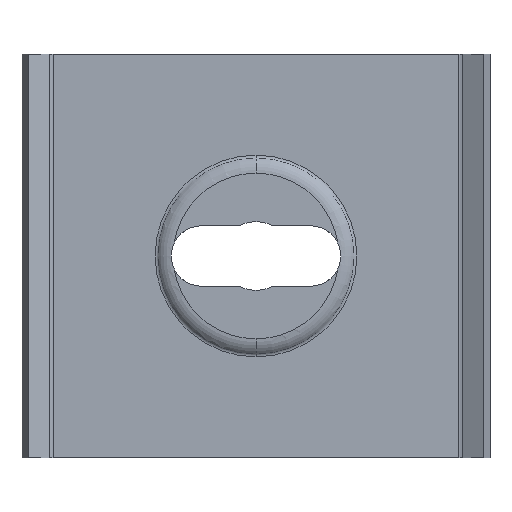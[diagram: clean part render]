
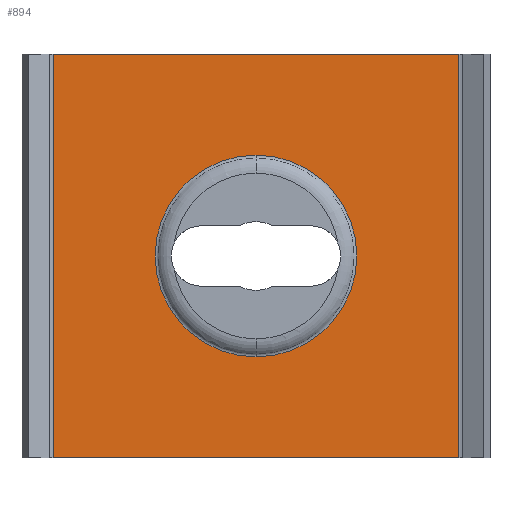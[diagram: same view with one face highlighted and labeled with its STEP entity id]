
A CAD part, left-side view. The second image highlights one B-rep face of the part: STEP entity #894.
In plain terms, the highlighted planar face has unit normal (-1, 0, 0).
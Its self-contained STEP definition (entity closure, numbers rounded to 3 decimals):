
#29 = CARTESIAN_POINT ( 'NONE',  ( -1.5, -25.152, 50. ) ) ;
#48 = CARTESIAN_POINT ( 'NONE',  ( -1.5, -25.152, 50. ) ) ;
#76 = CARTESIAN_POINT ( 'NONE',  ( -1.5, 25.152, 50. ) ) ;
#93 = ORIENTED_EDGE ( 'NONE', *, *, #979, .T. ) ;
#96 = DIRECTION ( 'NONE',  ( -1., 0., 0. ) ) ;
#140 = LINE ( 'NONE', #76, #1032 ) ;
#143 = DIRECTION ( 'NONE',  ( 0., 0., -1. ) ) ;
#193 = AXIS2_PLACEMENT_3D ( 'NONE', #583, #1096, #143 ) ;
#200 = CARTESIAN_POINT ( 'NONE',  ( -1.5, 25.152, 0. ) ) ;
#214 = CARTESIAN_POINT ( 'NONE',  ( -1.5, -25.152, 0. ) ) ;
#218 = ORIENTED_EDGE ( 'NONE', *, *, #506, .F. ) ;
#249 = VECTOR ( 'NONE', #297, 1000. ) ;
#264 = LINE ( 'NONE', #200, #249 ) ;
#277 = FACE_OUTER_BOUND ( 'NONE', #698, .T. ) ;
#279 = AXIS2_PLACEMENT_3D ( 'NONE', #443, #96, #361 ) ;
#283 = ORIENTED_EDGE ( 'NONE', *, *, #491, .F. ) ;
#296 = VERTEX_POINT ( 'NONE', #702 ) ;
#297 = DIRECTION ( 'NONE',  ( 0., -1., 0. ) ) ;
#298 = ORIENTED_EDGE ( 'NONE', *, *, #701, .T. ) ;
#330 = CARTESIAN_POINT ( 'NONE',  ( -1.5, 25.152, 50. ) ) ;
#361 = DIRECTION ( 'NONE',  ( 0., 0., -1. ) ) ;
#375 = DIRECTION ( 'NONE',  ( 0., 1., 0. ) ) ;
#417 = FACE_BOUND ( 'NONE', #690, .T. ) ;
#443 = CARTESIAN_POINT ( 'NONE',  ( -1.5, 0., 25. ) ) ;
#491 = EDGE_CURVE ( 'NONE', #941, #930, #533, .T. ) ;
#492 = DIRECTION ( 'NONE',  ( 0., -1., 0. ) ) ;
#506 = EDGE_CURVE ( 'NONE', #977, #296, #669, .T. ) ;
#533 = LINE ( 'NONE', #330, #776 ) ;
#555 = DIRECTION ( 'NONE',  ( 1., 0., 0. ) ) ;
#575 = LINE ( 'NONE', #48, #1069 ) ;
#583 = CARTESIAN_POINT ( 'NONE',  ( -1.5, 0., 25. ) ) ;
#633 = CARTESIAN_POINT ( 'NONE',  ( -1.5, 0., 37.5 ) ) ;
#641 = CARTESIAN_POINT ( 'NONE',  ( -1.5, 25.152, 0. ) ) ;
#669 = CIRCLE ( 'NONE', #193, 12.5 ) ;
#690 = EDGE_LOOP ( 'NONE', ( #1045, #218 ) ) ;
#698 = EDGE_LOOP ( 'NONE', ( #93, #845, #283, #298 ) ) ;
#701 = EDGE_CURVE ( 'NONE', #941, #919, #140, .T. ) ;
#702 = CARTESIAN_POINT ( 'NONE',  ( -1.5, 0., 12.5 ) ) ;
#704 = AXIS2_PLACEMENT_3D ( 'NONE', #1074, #555, #375 ) ;
#722 = PLANE ( 'NONE',  #704 ) ;
#776 = VECTOR ( 'NONE', #492, 1000. ) ;
#803 = EDGE_CURVE ( 'NONE', #296, #977, #1058, .T. ) ;
#828 = DIRECTION ( 'NONE',  ( 0., 0., -1. ) ) ;
#845 = ORIENTED_EDGE ( 'NONE', *, *, #1087, .F. ) ;
#894 = ADVANCED_FACE ( 'NONE', ( #277, #417 ), #722, .F. ) ;
#919 = VERTEX_POINT ( 'NONE', #641 ) ;
#930 = VERTEX_POINT ( 'NONE', #29 ) ;
#941 = VERTEX_POINT ( 'NONE', #1063 ) ;
#977 = VERTEX_POINT ( 'NONE', #633 ) ;
#979 = EDGE_CURVE ( 'NONE', #919, #981, #264, .T. ) ;
#981 = VERTEX_POINT ( 'NONE', #214 ) ;
#1032 = VECTOR ( 'NONE', #1103, 1000. ) ;
#1045 = ORIENTED_EDGE ( 'NONE', *, *, #803, .F. ) ;
#1058 = CIRCLE ( 'NONE', #279, 12.5 ) ;
#1063 = CARTESIAN_POINT ( 'NONE',  ( -1.5, 25.152, 50. ) ) ;
#1069 = VECTOR ( 'NONE', #828, 1000. ) ;
#1074 = CARTESIAN_POINT ( 'NONE',  ( -1.5, 25.152, 50. ) ) ;
#1087 = EDGE_CURVE ( 'NONE', #930, #981, #575, .T. ) ;
#1096 = DIRECTION ( 'NONE',  ( -1., 0., 0. ) ) ;
#1103 = DIRECTION ( 'NONE',  ( 0., 0., -1. ) ) ;
